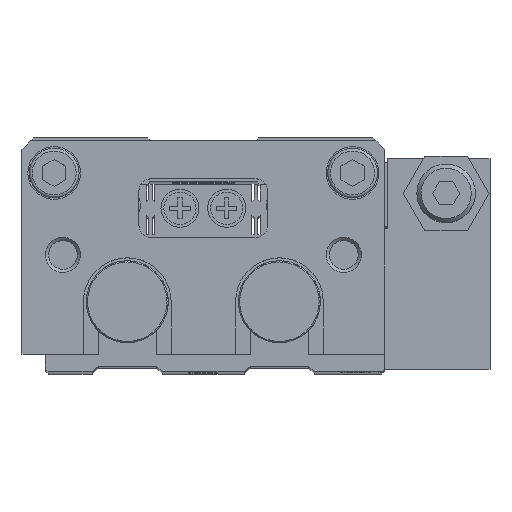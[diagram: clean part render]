
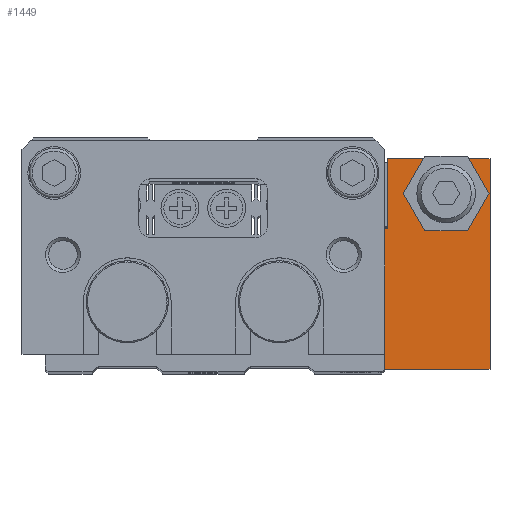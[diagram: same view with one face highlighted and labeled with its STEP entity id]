
A CAD part, top view. The second image highlights one B-rep face of the part: STEP entity #1449.
In plain terms, the highlighted planar face has unit normal (0, 0, 1) as drawn and (0, 0, -1) by its records, which use the part's own axes.
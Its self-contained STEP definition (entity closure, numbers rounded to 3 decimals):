
#1449 = ADVANCED_FACE( '', ( #3133 ), #3134, .F. );
#3133 = FACE_OUTER_BOUND( '', #4942, .T. );
#3134 = PLANE( '', #4943 );
#4942 = EDGE_LOOP( '', ( #8735, #8736, #8737, #8738, #8739, #8740, #8741, #8742, #8743, #8744, #8745, #8746 ) );
#4943 = AXIS2_PLACEMENT_3D( '', #8747, #8748, #8749 );
#8735 = ORIENTED_EDGE( '', *, *, #11052, .T. );
#8736 = ORIENTED_EDGE( '', *, *, #9712, .T. );
#8737 = ORIENTED_EDGE( '', *, *, #10809, .F. );
#8738 = ORIENTED_EDGE( '', *, *, #10414, .F. );
#8739 = ORIENTED_EDGE( '', *, *, #10832, .F. );
#8740 = ORIENTED_EDGE( '', *, *, #11097, .F. );
#8741 = ORIENTED_EDGE( '', *, *, #10900, .F. );
#8742 = ORIENTED_EDGE( '', *, *, #10861, .F. );
#8743 = ORIENTED_EDGE( '', *, *, #10811, .F. );
#8744 = ORIENTED_EDGE( '', *, *, #10489, .T. );
#8745 = ORIENTED_EDGE( '', *, *, #9653, .T. );
#8746 = ORIENTED_EDGE( '', *, *, #10701, .T. );
#8747 = CARTESIAN_POINT( '', ( 0., 0., -5.5 ) );
#8748 = DIRECTION( '', ( 0., 0., 1. ) );
#8749 = DIRECTION( '', ( 1., 0., 0. ) );
#9653 = EDGE_CURVE( '', #11312, #11313, #11314, .T. );
#9712 = EDGE_CURVE( '', #11417, #11418, #11419, .T. );
#10414 = EDGE_CURVE( '', #12592, #12593, #12594, .T. );
#10489 = EDGE_CURVE( '', #12713, #11312, #12716, .T. );
#10701 = EDGE_CURVE( '', #11313, #13019, #13020, .T. );
#10809 = EDGE_CURVE( '', #12593, #11418, #13158, .T. );
#10811 = EDGE_CURVE( '', #12713, #13160, #13161, .T. );
#10832 = EDGE_CURVE( '', #13189, #12592, #13190, .T. );
#10861 = EDGE_CURVE( '', #13160, #13222, #13223, .T. );
#10900 = EDGE_CURVE( '', #13222, #13279, #13280, .T. );
#11052 = EDGE_CURVE( '', #13019, #11417, #13465, .T. );
#11097 = EDGE_CURVE( '', #13279, #13189, #13519, .T. );
#11312 = VERTEX_POINT( '', #13773 );
#11313 = VERTEX_POINT( '', #13774 );
#11314 = LINE( '', #13775, #13776 );
#11417 = VERTEX_POINT( '', #13915 );
#11418 = VERTEX_POINT( '', #13916 );
#11419 = LINE( '', #13917, #13918 );
#12592 = VERTEX_POINT( '', #15502 );
#12593 = VERTEX_POINT( '', #15503 );
#12594 = LINE( '', #15504, #15505 );
#12713 = VERTEX_POINT( '', #15679 );
#12716 = LINE( '', #15684, #15685 );
#13019 = VERTEX_POINT( '', #16106 );
#13020 = LINE( '', #16107, #16108 );
#13158 = LINE( '', #16301, #16302 );
#13160 = VERTEX_POINT( '', #16305 );
#13161 = LINE( '', #16306, #16307 );
#13189 = VERTEX_POINT( '', #16345 );
#13190 = LINE( '', #16346, #16347 );
#13222 = VERTEX_POINT( '', #16394 );
#13223 = LINE( '', #16395, #16396 );
#13279 = VERTEX_POINT( '', #16471 );
#13280 = LINE( '', #16472, #16473 );
#13465 = LINE( '', #16724, #16725 );
#13519 = LINE( '', #16796, #16797 );
#13773 = CARTESIAN_POINT( '', ( -0.168, 6., -5.5 ) );
#13774 = CARTESIAN_POINT( '', ( -3.834, 12.35, -5.5 ) );
#13775 = CARTESIAN_POINT( '', ( -0.168, 6., -5.5 ) );
#13776 = VECTOR( '', #17032, 1000. );
#13915 = CARTESIAN_POINT( '', ( -14.832, 6., -5.5 ) );
#13916 = CARTESIAN_POINT( '', ( -11.368, 0., -5.5 ) );
#13917 = CARTESIAN_POINT( '', ( -14.832, 6., -5.5 ) );
#13918 = VECTOR( '', #17099, 1000. );
#15502 = CARTESIAN_POINT( '', ( -17.5, 12., -5.5 ) );
#15503 = CARTESIAN_POINT( '', ( -17.5, 0., -5.5 ) );
#15504 = CARTESIAN_POINT( '', ( -17.5, 12., -5.5 ) );
#15505 = VECTOR( '', #17895, 1000. );
#15679 = CARTESIAN_POINT( '', ( -3.632, 0., -5.5 ) );
#15684 = CARTESIAN_POINT( '', ( -3.834, -0.35, -5.5 ) );
#15685 = VECTOR( '', #17983, 1000. );
#16106 = CARTESIAN_POINT( '', ( -11.166, 12.35, -5.5 ) );
#16107 = CARTESIAN_POINT( '', ( -3.834, 12.35, -5.5 ) );
#16108 = VECTOR( '', #18195, 1000. );
#16301 = CARTESIAN_POINT( '', ( -17.5, 0., -5.5 ) );
#16302 = VECTOR( '', #18287, 1000. );
#16305 = CARTESIAN_POINT( '', ( 0., 0., -5.5 ) );
#16306 = CARTESIAN_POINT( '', ( -17.5, 0., -5.5 ) );
#16307 = VECTOR( '', #18289, 1000. );
#16345 = CARTESIAN_POINT( '', ( -19., 12., -5.5 ) );
#16346 = CARTESIAN_POINT( '', ( -19., 12., -5.5 ) );
#16347 = VECTOR( '', #18309, 1000. );
#16394 = CARTESIAN_POINT( '', ( 0., 36., -5.5 ) );
#16395 = CARTESIAN_POINT( '', ( 0., 0., -5.5 ) );
#16396 = VECTOR( '', #18325, 1000. );
#16471 = CARTESIAN_POINT( '', ( -19., 36., -5.5 ) );
#16472 = CARTESIAN_POINT( '', ( 0., 36., -5.5 ) );
#16473 = VECTOR( '', #18366, 1000. );
#16724 = CARTESIAN_POINT( '', ( -11.166, 12.35, -5.5 ) );
#16725 = VECTOR( '', #18487, 1000. );
#16796 = CARTESIAN_POINT( '', ( -19., 36., -5.5 ) );
#16797 = VECTOR( '', #18520, 1000. );
#17032 = DIRECTION( '', ( -0.5, 0.866, 0. ) );
#17099 = DIRECTION( '', ( 0.5, -0.866, 0. ) );
#17895 = DIRECTION( '', ( 0., -1., 0. ) );
#17983 = DIRECTION( '', ( 0.5, 0.866, 0. ) );
#18195 = DIRECTION( '', ( -1., 0., 0. ) );
#18287 = DIRECTION( '', ( 1., 0., 0. ) );
#18289 = DIRECTION( '', ( 1., 0., 0. ) );
#18309 = DIRECTION( '', ( 1., 0., 0. ) );
#18325 = DIRECTION( '', ( 0., 1., 0. ) );
#18366 = DIRECTION( '', ( -1., 0., 0. ) );
#18487 = DIRECTION( '', ( -0.5, -0.866, 0. ) );
#18520 = DIRECTION( '', ( 0., -1., 0. ) );
